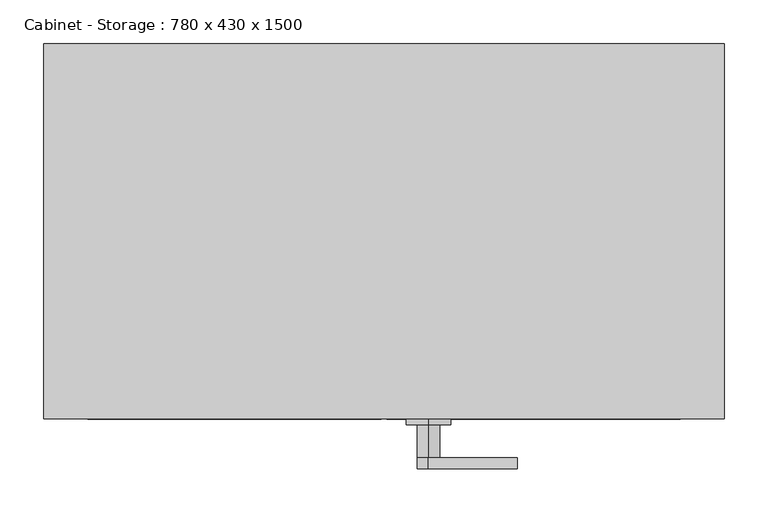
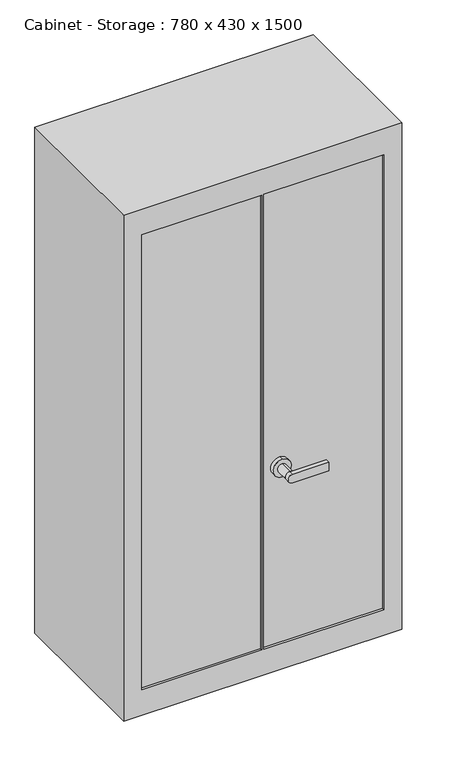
"""IFC4 building model written with IfcOpenShell, lengths in millimetres: furniture geometry, Cabinet - Storage : 780 x 430 x 1500."""

from ifc_helpers import new_model, si_unit, point, frame, frame_2d, origin, place, context, project, spatial, polyline, circle_curve, trimmed, segment, composite_curve, outline, extrude, faceted_brep, source, transform, mapped, element, save


def cabinet_storage_780_x_430_x_1500_3fb16e5e(model_context):
    return source(origin(), model_context, "Body", "SolidModel", [
        extrude(outline(composite_curve([segment(polyline([(612.7, 152.5427411), (612.7, 50.9427411)]), True, "CONTINUOUS"), segment(trimmed(circle_curve(frame_2d((600.0, 50.9427411)), 12.7), [point((612.7, 50.9427411))], [point((587.3, 50.9427411))], False, "CARTESIAN"), True, "CONTINUOUS"), segment(polyline([(587.3, 50.9427411), (587.3, 152.5427411), (612.7, 152.5427411)]), True, "CONTINUOUS")], self_intersect=False)), frame((0.0, -272.15, 0.0), z_axis=(0.0, 1.0, 0.0), x_axis=(0.0, 0.0, 1.0)), (0.0, 0.0, 1.0), 12.7),
        extrude(outline(composite_curve([segment(trimmed(circle_curve(frame_2d((600.0, 50.9427411)), 12.7), [point((612.7, 50.9427411))], [point((587.3, 50.9427411))], False, "CARTESIAN"), True, "CONTINUOUS"), segment(trimmed(circle_curve(frame_2d((600.0, 50.9427411)), 12.7), [point((587.3, 50.9427411))], [point((612.7, 50.9427411))], False, "CARTESIAN"), True, "CONTINUOUS")], self_intersect=False)), frame((0.0, -259.45, 0.0), z_axis=(0.0, 1.0, 0.0), x_axis=(0.0, 0.0, 1.0)), (0.0, 0.0, 1.0), 38.1),
        extrude(outline(composite_curve([segment(trimmed(circle_curve(frame_2d((600.0, 50.9427411)), 25.4), [point((625.4, 50.9427411))], [point((574.6, 50.9427411))], False, "CARTESIAN"), True, "CONTINUOUS"), segment(trimmed(circle_curve(frame_2d((600.0, 50.9427411)), 25.4), [point((574.6, 50.9427411))], [point((625.4, 50.9427411))], False, "CARTESIAN"), True, "CONTINUOUS")], self_intersect=False)), frame((0.0, -221.35, 0.0), z_axis=(0.0, 1.0, 0.0), x_axis=(0.0, 0.0, 1.0)), (0.0, 0.0, 1.0), 12.7),
        faceted_brep([(390.0, -215.0, 1500.0), (390.0, 215.0, 1500.0), (-390.0, 215.0, 1500.0), (-390.0, -215.0, 1500.0), (390.0, -215.0, 0.0), (-390.0, -215.0, 0.0), (-390.0, 215.0, 0.0), (390.0, 215.0, 0.0), (339.2, -215.0, 1423.8), (339.2, -215.0, 76.2), (3.175, -215.0, 76.2), (3.175, -215.0, 1423.8), (-339.2, -215.0, 1423.8), (-3.175, -215.0, 1423.8), (-3.175, -215.0, 76.2), (-339.2, -215.0, 76.2), (339.2, -208.65, 76.2), (339.2, -208.65, 1423.8), (3.175, -208.65, 1423.8), (3.175, -208.65, 76.2), (-3.175, -208.65, 1423.8), (-339.2, -208.65, 1423.8), (-339.2, -208.65, 76.2), (-3.175, -208.65, 76.2)], [[[0, 1, 2, 3]], [[4, 5, 6, 7]], [[1, 0, 4, 7]], [[2, 1, 7, 6]], [[3, 2, 6, 5]], [[0, 3, 5, 4], [8, 9, 10, 11], [12, 13, 14, 15]], [[16, 17, 18, 19]], [[17, 16, 9, 8]], [[18, 17, 8, 11]], [[19, 18, 11, 10]], [[16, 19, 10, 9]], [[20, 21, 22, 23]], [[21, 20, 13, 12]], [[22, 21, 12, 15]], [[23, 22, 15, 14]], [[20, 23, 14, 13]]]),
    ])


if __name__ == "__main__":
    model = new_model("IFC4")
    model_context = context("Model", 3, world=origin())
    ifc_project = project(units=[si_unit("LENGTHUNIT", "METRE", prefix="MILLI")], contexts=[model_context])
    site = spatial("IfcSite", under=ifc_project)
    building = spatial("IfcBuilding", under=site)
    placement = place(None, origin())
    cabinet_storage_780_x_430_x_1500_shape = cabinet_storage_780_x_430_x_1500_3fb16e5e(model_context)
    element("IfcFurniture", 1, ObjectType="Cabinet - Storage : 780 x 430 x 1500", at=placement, inside=building, context=model_context, shape_type="MappedRepresentation", body=[
        mapped(cabinet_storage_780_x_430_x_1500_shape, transform((0.0, 0.0, 0.0), x_axis=(1.0, 0.0, 0.0), y_axis=(0.0, 1.0, 0.0), z_axis=(0.0, 0.0, 1.0))),
    ])
    save(model, "model.ifc")
